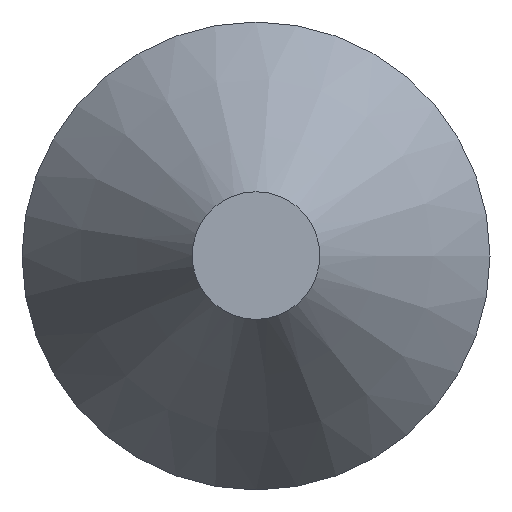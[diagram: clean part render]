
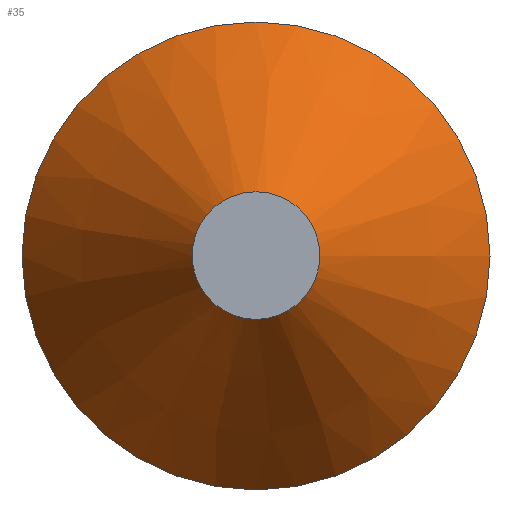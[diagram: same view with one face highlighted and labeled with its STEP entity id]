
A CAD part, top view. The second image highlights one B-rep face of the part: STEP entity #35.
In plain terms, the highlighted conical face has half-angle 33.69 degrees and reference radius 2750 mm.
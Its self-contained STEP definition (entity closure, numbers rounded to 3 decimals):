
#35 = ADVANCED_FACE('',(#36),#49,.T.);
#36 = FACE_BOUND('',#37,.T.);
#37 = EDGE_LOOP('',(#38,#72,#92,#119));
#38 = ORIENTED_EDGE('',*,*,#39,.T.);
#39 = EDGE_CURVE('',#40,#40,#42,.T.);
#40 = VERTEX_POINT('',#41);
#41 = CARTESIAN_POINT('',(2750.,0.,0.));
#42 = SURFACE_CURVE('',#43,(#48,#60),.PCURVE_S1.);
#43 = CIRCLE('',#44,2750.);
#44 = AXIS2_PLACEMENT_3D('',#45,#46,#47);
#45 = CARTESIAN_POINT('',(0.,0.,0.));
#46 = DIRECTION('',(0.,0.,1.));
#47 = DIRECTION('',(1.,0.,0.));
#48 = PCURVE('',#49,#54);
#49 = CONICAL_SURFACE('',#50,2750.,0.588);
#50 = AXIS2_PLACEMENT_3D('',#51,#52,#53);
#51 = CARTESIAN_POINT('',(0.,0.,0.));
#52 = DIRECTION('',(-0.,-0.,-1.));
#53 = DIRECTION('',(1.,0.,0.));
#54 = DEFINITIONAL_REPRESENTATION('',(#55),#59);
#55 = LINE('',#56,#57);
#56 = CARTESIAN_POINT('',(-0.,-0.));
#57 = VECTOR('',#58,1.);
#58 = DIRECTION('',(-1.,-0.));
#59 = ( GEOMETRIC_REPRESENTATION_CONTEXT(2) 
PARAMETRIC_REPRESENTATION_CONTEXT() REPRESENTATION_CONTEXT('2D SPACE',''
  ) );
#60 = PCURVE('',#61,#66);
#61 = PLANE('',#62);
#62 = AXIS2_PLACEMENT_3D('',#63,#64,#65);
#63 = CARTESIAN_POINT('',(0.,0.,0.));
#64 = DIRECTION('',(0.,0.,1.));
#65 = DIRECTION('',(1.,0.,0.));
#66 = DEFINITIONAL_REPRESENTATION('',(#67),#71);
#67 = CIRCLE('',#68,2750.);
#68 = AXIS2_PLACEMENT_2D('',#69,#70);
#69 = CARTESIAN_POINT('',(0.,0.));
#70 = DIRECTION('',(1.,0.));
#71 = ( GEOMETRIC_REPRESENTATION_CONTEXT(2) 
PARAMETRIC_REPRESENTATION_CONTEXT() REPRESENTATION_CONTEXT('2D SPACE',''
  ) );
#72 = ORIENTED_EDGE('',*,*,#73,.T.);
#73 = EDGE_CURVE('',#40,#74,#76,.T.);
#74 = VERTEX_POINT('',#75);
#75 = CARTESIAN_POINT('',(750.,0.,3000.));
#76 = SEAM_CURVE('',#77,(#80,#86),.PCURVE_S1.);
#77 = B_SPLINE_CURVE_WITH_KNOTS('',1,(#78,#79),.UNSPECIFIED.,.F.,.F.,(2,
    2),(0.,1.),.PIECEWISE_BEZIER_KNOTS.);
#78 = CARTESIAN_POINT('',(2750.,0.,0.));
#79 = CARTESIAN_POINT('',(750.,0.,3000.));
#80 = PCURVE('',#49,#81);
#81 = DEFINITIONAL_REPRESENTATION('',(#82),#85);
#82 = B_SPLINE_CURVE_WITH_KNOTS('',1,(#83,#84),.UNSPECIFIED.,.F.,.F.,(2,
    2),(0.,1.),.PIECEWISE_BEZIER_KNOTS.);
#83 = CARTESIAN_POINT('',(-6.283,0.));
#84 = CARTESIAN_POINT('',(-6.283,-3000.));
#85 = ( GEOMETRIC_REPRESENTATION_CONTEXT(2) 
PARAMETRIC_REPRESENTATION_CONTEXT() REPRESENTATION_CONTEXT('2D SPACE',''
  ) );
#86 = PCURVE('',#49,#87);
#87 = DEFINITIONAL_REPRESENTATION('',(#88),#91);
#88 = B_SPLINE_CURVE_WITH_KNOTS('',1,(#89,#90),.UNSPECIFIED.,.F.,.F.,(2,
    2),(0.,1.),.PIECEWISE_BEZIER_KNOTS.);
#89 = CARTESIAN_POINT('',(0.,0.));
#90 = CARTESIAN_POINT('',(0.,-3000.));
#91 = ( GEOMETRIC_REPRESENTATION_CONTEXT(2) 
PARAMETRIC_REPRESENTATION_CONTEXT() REPRESENTATION_CONTEXT('2D SPACE',''
  ) );
#92 = ORIENTED_EDGE('',*,*,#93,.F.);
#93 = EDGE_CURVE('',#74,#74,#94,.T.);
#94 = SURFACE_CURVE('',#95,(#100,#107),.PCURVE_S1.);
#95 = CIRCLE('',#96,750.);
#96 = AXIS2_PLACEMENT_3D('',#97,#98,#99);
#97 = CARTESIAN_POINT('',(0.,0.,3000.));
#98 = DIRECTION('',(0.,0.,1.));
#99 = DIRECTION('',(1.,0.,0.));
#100 = PCURVE('',#49,#101);
#101 = DEFINITIONAL_REPRESENTATION('',(#102),#106);
#102 = LINE('',#103,#104);
#103 = CARTESIAN_POINT('',(-0.,-3000.));
#104 = VECTOR('',#105,1.);
#105 = DIRECTION('',(-1.,-0.));
#106 = ( GEOMETRIC_REPRESENTATION_CONTEXT(2) 
PARAMETRIC_REPRESENTATION_CONTEXT() REPRESENTATION_CONTEXT('2D SPACE',''
  ) );
#107 = PCURVE('',#108,#113);
#108 = PLANE('',#109);
#109 = AXIS2_PLACEMENT_3D('',#110,#111,#112);
#110 = CARTESIAN_POINT('',(0.,0.,3000.));
#111 = DIRECTION('',(0.,0.,1.));
#112 = DIRECTION('',(1.,0.,0.));
#113 = DEFINITIONAL_REPRESENTATION('',(#114),#118);
#114 = CIRCLE('',#115,750.);
#115 = AXIS2_PLACEMENT_2D('',#116,#117);
#116 = CARTESIAN_POINT('',(0.,0.));
#117 = DIRECTION('',(1.,0.));
#118 = ( GEOMETRIC_REPRESENTATION_CONTEXT(2) 
PARAMETRIC_REPRESENTATION_CONTEXT() REPRESENTATION_CONTEXT('2D SPACE',''
  ) );
#119 = ORIENTED_EDGE('',*,*,#73,.F.);
